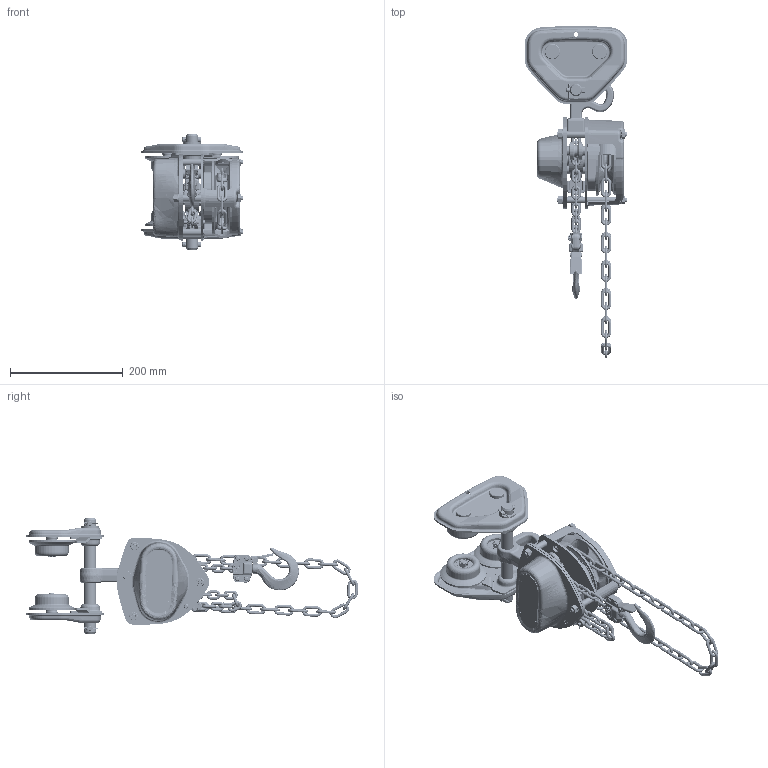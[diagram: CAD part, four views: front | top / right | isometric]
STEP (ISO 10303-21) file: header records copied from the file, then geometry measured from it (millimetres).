
FILE_DESCRIPTION (( 'STEP AP214' ), '1' );
FILE_NAME ('CB005 w PTF005.STEP', '2026-08-17T19:05:38', ( '' ), ( '' ), 'SwSTEP 2.0', 'SolidWorks 2026', '' );
FILE_SCHEMA (( 'AUTOMOTIVE_DESIGN' ));
Length unit declared in the file: inch
Products named in the file (54): C3BA005-90011; T6G156005; C3BA005-91042; HCCF005; T6G5112005; T6PA0059113; T6PA0059102; M3176005; M3171005; M3177005; 9009413_9009413; CB005 dead end chain; M3021A005; T7G117005; CB005 w PTF005; C3BA005-90312; 9093424_9093424; M3101005; HCCF005 FOR CF005; T6G5102005; C3BA005-98011; C3BA005-91011; M3163005; CB005_LUG MOUNT; 6202Z Bearing; M3049005; C3BA005-91021; C3BA005-91731; 9012711_9012711; PTF2005_4" FLANGE; LCCF005 (4 LINKS); T6PA0059103; M3116005; C3BA005-91031; M3162005; M3161005; M3103005; 9009402_AS 1236 PSM - 1.6 x 10; LCCF005; C3BA005-91722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
Assembly tree (136 placements, depth 5):
  CB005 w PTF005
    PTF2005_4" FLANGE
      T6G5112005  x2
        T6PA0059112
        T6PA0059103
        T6PA0059113
      T7G115005
      T6G5102005  x4
        T6PA0059102
        6202Z Bearing
      9009413_9009413  x4
      T7G117005
      T6G156005  x2
      9009423_9009423  x2
      T6G800005P
      L3183008_CASTLENUT_J1NL001-10100  x4
    CB005_LUG MOUNT
      M3101005
        C3BA005-61012
          C3BA005-91011
          C3BA005-91722
        C3BA005-91042  x3
      M3102005
        C3BA005-91021
      M3103005
        C3BA005-91031
        C3BA005-98011
      M3171005
        C3BA005-91711
        C3BA005-91731  x2
      M3115005
      HCCF005 FOR CF005
        HCCF005  x36
      9012711_9012711  x6
      9093424_9093424  x6
      M3163005
      M3116005
      M3161005  x2
      M3162005
      M3021A005
        C3BA005-90011
        CF071005
        C3BA005-90312  x2
      M3176005
      LCCF005 (4 LINKS)_8 LINKS
        LCCF005  x14
      CB005 dead end chain
        LCCF005 (4 LINKS)
          LCCF005  x4
        LCCF005  x2
        LCCF005 (4 LINKS)_8 LINKS
          LCCF005  x14
      M3041005
      M3049005
      9009402_AS 1236 PSM - 1.6 x 10
      M3177005
      9009412_9009412
      T7GC004005_SUSPENDER C
Bounding box: 182 x 588.09 x 204 mm (x, y, z)
Volume: 1217417.2 mm3; surface area: 751443.8 mm2
Topology: 137 solids, 153 shells, 6548 faces, 16222 edges, 9998 vertices
Faces by surface type: plane 2068, cylinder 1704, torus 1337, bspline 742, cone 653, sphere 44
Entity records: 401563 total; most frequent: CARTESIAN_POINT 317563, ORIENTED_EDGE 17692, DIRECTION 16372, EDGE_CURVE 8848, AXIS2_PLACEMENT_3D 6848, VERTEX_POINT 5474, CIRCLE 3766, EDGE_LOOP 3764
